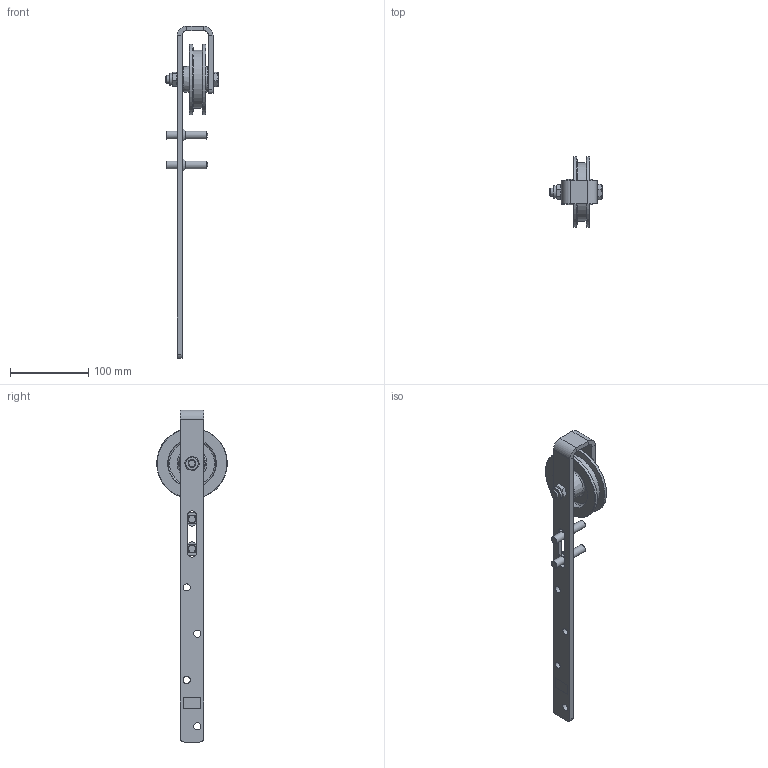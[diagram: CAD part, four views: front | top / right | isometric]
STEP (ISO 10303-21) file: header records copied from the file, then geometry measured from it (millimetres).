
FILE_DESCRIPTION(/* description */ ('Schiebetorrolle mit Buegel Ø90'),/* implementation_level */ '2;1');
FILE_NAME(/* name */ '010330136.iam.stp',/* time_stamp */ '2023-08-31T09:47:02+02:00',/* author */ ('Lesti'),/* organization */ (''),/* preprocessor_version */ 'ST-DEVELOPER v19.2',/* originating_system */ 'Autodesk Inventor 2023',/* authorisation */ '');
FILE_SCHEMA (('AUTOMOTIVE_DESIGN { 1 0 10303 214 3 1 1 }'));
Length unit declared in the file: millimetre
Products named in the file (7): 010330136; 010330128_02; 337000109; 011331037; DIN EN ISO 7040 - M10; DIN 931-1 - M10 x 60; 010330128_04
Assembly tree (15 placements, depth 2):
  010330136
    010330128_02
    337000109
    011331037  x2
    DIN EN ISO 7040 - M10
    DIN 931-1 - M10 x 60
    010330128_04  x9
Bounding box: 66.4 x 90 x 423 mm (x, y, z)
Volume: 187825.7 mm3; surface area: 79688.7 mm2
Topology: 15 solids, 15 shells, 199 faces, 426 edges, 269 vertices
Faces by surface type: plane 96, cylinder 41, bspline 33, cone 23, torus 6
Full cylindrical faces by diameter (mm): 5 x9, 8.376 x1, 9 x4, 10 x5, 10.5 x2, 15.6 x2, 18 x2, 20 x1, 74 x1, 90 x2
Entity records: 5054 total; most frequent: CARTESIAN_POINT 1257, ORIENTED_EDGE 732, DIRECTION 688, EDGE_CURVE 366, AXIS2_PLACEMENT_3D 258, VERTEX_POINT 232, EDGE_LOOP 190, LINE 172
